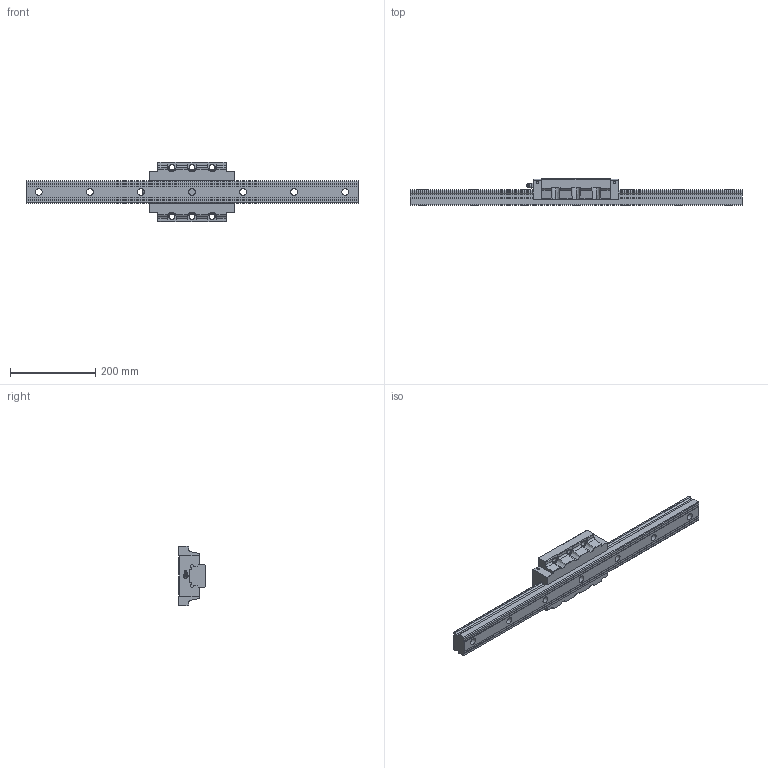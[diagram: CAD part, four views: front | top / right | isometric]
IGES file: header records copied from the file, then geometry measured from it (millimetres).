
Start section: Data from Parasolid IGES Translator 26.0.171, Copyright(c) 2006 Siemens PLM Software. All Rights Reserved.
Global section: file name: SVR55LC1SS-780L_G30_0_B-PT18_289-75_0_0_0_1.igs; native system: By Siemens PLM Incorporated; preprocessor: XPlus GENERIC/IGES 26.0.171; author: Noname; organization: Noname; date: 20240517.072342; units: millimetre
Bounding box: 780 x 63 x 140 mm (x, y, z)
Surface area: 257768.6 mm2 (no closed solid volume)
Topology: 0 solids, 0 shells, 252 faces, 1359 edges, 1298 vertices
Faces by surface type: extrusion 140, revolution 112
